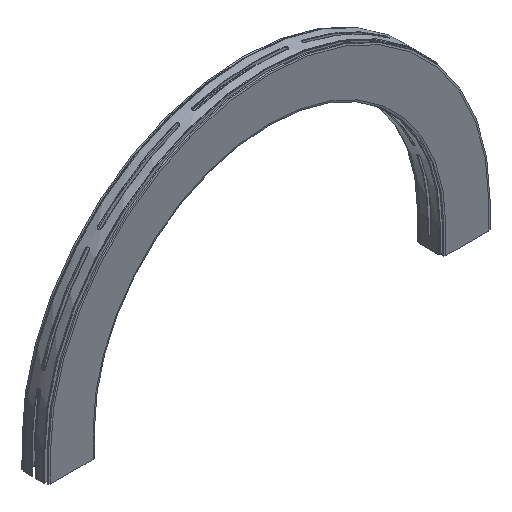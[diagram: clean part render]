
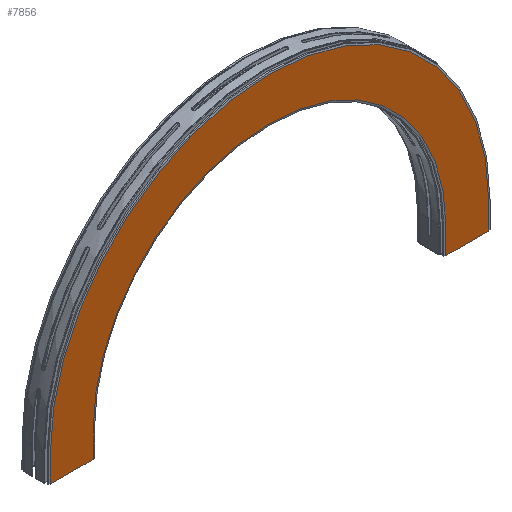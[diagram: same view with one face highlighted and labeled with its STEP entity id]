
A CAD part, isometric view. The second image highlights one B-rep face of the part: STEP entity #7856.
In plain terms, the highlighted planar face has unit normal (0, -1, 0).
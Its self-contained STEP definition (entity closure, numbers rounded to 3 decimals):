
#7613=CARTESIAN_POINT('',(104.,-74.,0.0));
#7614=VERTEX_POINT('',#7613);
#7621=CARTESIAN_POINT('',(-26.,-74.,0.0));
#7622=VERTEX_POINT('',#7621);
#7623=CARTESIAN_POINT('',(-26.,-74.,0.0));
#7624=DIRECTION('',(1.0,0.0,0.0));
#7625=VECTOR('',#7624,130.);
#7626=LINE('',#7623,#7625);
#7627=EDGE_CURVE('',#7622,#7614,#7626,.T.);
#7682=CARTESIAN_POINT('',(-26.,-74.,80.0));
#7683=VERTEX_POINT('',#7682);
#7692=CARTESIAN_POINT('',(-26.,-74.,0.0));
#7693=DIRECTION('',(0.0,0.0,1.0));
#7694=VECTOR('',#7693,80.0);
#7695=LINE('',#7692,#7694);
#7696=EDGE_CURVE('',#7622,#7683,#7695,.T.);
#7706=CARTESIAN_POINT('',(104.,-74.,80.0));
#7707=VERTEX_POINT('',#7706);
#7716=CARTESIAN_POINT('',(104.,-74.,0.0));
#7717=DIRECTION('',(0.0,0.0,1.0));
#7718=VECTOR('',#7717,80.0);
#7719=LINE('',#7716,#7718);
#7720=EDGE_CURVE('',#7614,#7707,#7719,.T.);
#7739=CARTESIAN_POINT('',(-1096.,-74.,80.));
#7740=VERTEX_POINT('',#7739);
#7755=CARTESIAN_POINT('',(-561.,-74.,80.0));
#7756=DIRECTION('',(0.0,-1.0,0.0));
#7757=DIRECTION('',(1.0,0.0,0.0));
#7758=AXIS2_PLACEMENT_3D('',#7755,#7756,#7757);
#7759=CIRCLE('',#7758,535.);
#7760=EDGE_CURVE('',#7683,#7740,#7759,.T.);
#7814=CARTESIAN_POINT('',(-1226.,-74.,2044.956));
#7815=DIRECTION('',(0.0,-1.0,0.0));
#7816=DIRECTION('',(0.0,0.0,1.0));
#7817=AXIS2_PLACEMENT_3D('',#7814,#7815,#7816);
#7818=PLANE('',#7817);
#7819=CARTESIAN_POINT('',(-1226.,-74.,0.));
#7820=VERTEX_POINT('',#7819);
#7821=CARTESIAN_POINT('',(-1096.,-74.,0.));
#7822=VERTEX_POINT('',#7821);
#7823=CARTESIAN_POINT('',(-1226.,-74.,0.));
#7824=DIRECTION('',(1.0,0.0,0.0));
#7825=VECTOR('',#7824,130.0);
#7826=LINE('',#7823,#7825);
#7827=EDGE_CURVE('',#7820,#7822,#7826,.T.);
#7828=ORIENTED_EDGE('',*,*,#7827,.T.);
#7829=CARTESIAN_POINT('',(-1096.,-74.,80.));
#7830=DIRECTION('',(0.0,0.0,-1.0));
#7831=VECTOR('',#7830,80.0);
#7832=LINE('',#7829,#7831);
#7833=EDGE_CURVE('',#7740,#7822,#7832,.T.);
#7834=ORIENTED_EDGE('',*,*,#7833,.F.);
#7835=ORIENTED_EDGE('',*,*,#7760,.F.);
#7836=ORIENTED_EDGE('',*,*,#7696,.F.);
#7837=ORIENTED_EDGE('',*,*,#7627,.T.);
#7838=ORIENTED_EDGE('',*,*,#7720,.T.);
#7839=CARTESIAN_POINT('',(-1226.,-74.,80.));
#7840=VERTEX_POINT('',#7839);
#7841=CARTESIAN_POINT('',(-561.,-74.,80.0));
#7842=DIRECTION('',(0.0,-1.0,0.0));
#7843=DIRECTION('',(1.0,0.0,0.0));
#7844=AXIS2_PLACEMENT_3D('',#7841,#7842,#7843);
#7845=CIRCLE('',#7844,665.);
#7846=EDGE_CURVE('',#7707,#7840,#7845,.T.);
#7847=ORIENTED_EDGE('',*,*,#7846,.T.);
#7848=CARTESIAN_POINT('',(-1226.,-74.,80.));
#7849=DIRECTION('',(0.0,0.0,-1.0));
#7850=VECTOR('',#7849,80.0);
#7851=LINE('',#7848,#7850);
#7852=EDGE_CURVE('',#7840,#7820,#7851,.T.);
#7853=ORIENTED_EDGE('',*,*,#7852,.T.);
#7854=EDGE_LOOP('',(#7828,#7834,#7835,#7836,#7837,#7838,#7847,#7853));
#7855=FACE_OUTER_BOUND('',#7854,.T.);
#7856=ADVANCED_FACE('',(#7855),#7818,.T.);
